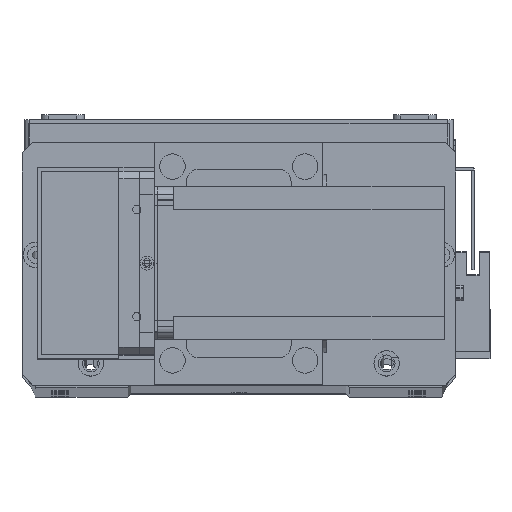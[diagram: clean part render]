
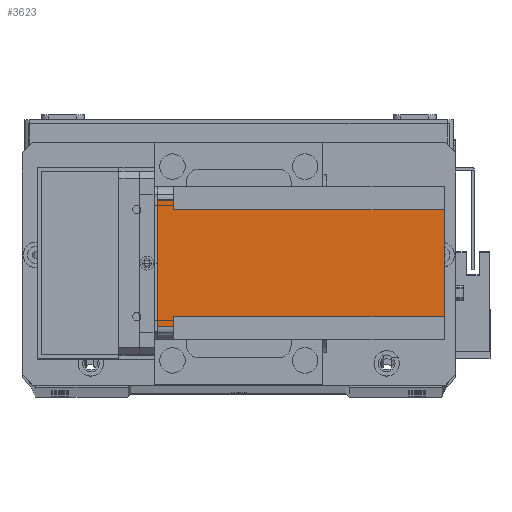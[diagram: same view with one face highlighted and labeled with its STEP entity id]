
A CAD part, top view. The second image highlights one B-rep face of the part: STEP entity #3623.
In plain terms, the highlighted planar face has unit normal (0, 0, 1) as drawn and (-1, 0, 0) by its records, which use the part's own axes.
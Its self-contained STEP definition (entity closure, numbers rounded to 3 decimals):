
#206 = EDGE_CURVE ( 'NONE', #17680, #15325, #20831, .T. ) ;
#563 = VERTEX_POINT ( 'NONE', #28818 ) ;
#1570 = EDGE_CURVE ( 'NONE', #5003, #563, #19942, .T. ) ;
#1966 = DIRECTION ( 'NONE',  ( 0., -1., 0. ) ) ;
#3623 = ADVANCED_FACE ( 'NONE', ( #33237 ), #30148, .T. ) ;
#4470 = CARTESIAN_POINT ( 'NONE',  ( 0., 9., -6.5 ) ) ;
#5003 = VERTEX_POINT ( 'NONE', #20856 ) ;
#5690 = CARTESIAN_POINT ( 'NONE',  ( 0., 51., -112.5 ) ) ;
#5942 = DIRECTION ( 'NONE',  ( 0., 1., 0. ) ) ;
#6618 = DIRECTION ( 'NONE',  ( 0., -1., 0. ) ) ;
#6782 = LINE ( 'NONE', #27424, #19641 ) ;
#7757 = AXIS2_PLACEMENT_3D ( 'NONE', #19824, #17367, #1966 ) ;
#8001 = CARTESIAN_POINT ( 'NONE',  ( 0., 55., -112.5 ) ) ;
#8595 = VERTEX_POINT ( 'NONE', #20460 ) ;
#8763 = DIRECTION ( 'NONE',  ( 0., 0., -1. ) ) ;
#8872 = EDGE_CURVE ( 'NONE', #15584, #21569, #29741, .T. ) ;
#9261 = LINE ( 'NONE', #31653, #15310 ) ;
#9895 = EDGE_CURVE ( 'NONE', #17680, #21569, #6782, .T. ) ;
#11438 = ORIENTED_EDGE ( 'NONE', *, *, #31571, .F. ) ;
#11570 = EDGE_CURVE ( 'NONE', #15325, #11581, #27076, .T. ) ;
#11581 = VERTEX_POINT ( 'NONE', #16153 ) ;
#13815 = CARTESIAN_POINT ( 'NONE',  ( 0., 9., -112.5 ) ) ;
#15078 = EDGE_LOOP ( 'NONE', ( #11438, #31430, #29093, #20043, #28393, #30269, #20622, #17919 ) ) ;
#15310 = VECTOR ( 'NONE', #16286, 1000. ) ;
#15325 = VERTEX_POINT ( 'NONE', #26476 ) ;
#15584 = VERTEX_POINT ( 'NONE', #4470 ) ;
#16153 = CARTESIAN_POINT ( 'NONE',  ( 0., 55., -6.5 ) ) ;
#16286 = DIRECTION ( 'NONE',  ( 0., 1., 0. ) ) ;
#17367 = DIRECTION ( 'NONE',  ( -1., 0., 0. ) ) ;
#17680 = VERTEX_POINT ( 'NONE', #5690 ) ;
#17919 = ORIENTED_EDGE ( 'NONE', *, *, #8872, .F. ) ;
#19141 = VECTOR ( 'NONE', #6618, 1000. ) ;
#19580 = LINE ( 'NONE', #8001, #33218 ) ;
#19641 = VECTOR ( 'NONE', #22374, 1000. ) ;
#19824 = CARTESIAN_POINT ( 'NONE',  ( 0., 0., -112.5 ) ) ;
#19942 = LINE ( 'NONE', #29736, #19141 ) ;
#20035 = VECTOR ( 'NONE', #26708, 1000. ) ;
#20043 = ORIENTED_EDGE ( 'NONE', *, *, #22940, .T. ) ;
#20263 = VECTOR ( 'NONE', #5942, 1000. ) ;
#20460 = CARTESIAN_POINT ( 'NONE',  ( 0., 5., -6.5 ) ) ;
#20622 = ORIENTED_EDGE ( 'NONE', *, *, #9895, .T. ) ;
#20831 = LINE ( 'NONE', #27035, #20035 ) ;
#20856 = CARTESIAN_POINT ( 'NONE',  ( 0., 55., 0. ) ) ;
#21569 = VERTEX_POINT ( 'NONE', #28755 ) ;
#22374 = DIRECTION ( 'NONE',  ( 0., -1., 0. ) ) ;
#22752 = DIRECTION ( 'NONE',  ( 0., 0., 1. ) ) ;
#22789 = LINE ( 'NONE', #25887, #28808 ) ;
#22921 = VECTOR ( 'NONE', #8763, 1000. ) ;
#22940 = EDGE_CURVE ( 'NONE', #5003, #11581, #19580, .T. ) ;
#25887 = CARTESIAN_POINT ( 'NONE',  ( 0., 5., -112.5 ) ) ;
#26476 = CARTESIAN_POINT ( 'NONE',  ( 0., 51., -6.5 ) ) ;
#26708 = DIRECTION ( 'NONE',  ( 0., 0., 1. ) ) ;
#27035 = CARTESIAN_POINT ( 'NONE',  ( 0., 51., -112.5 ) ) ;
#27076 = LINE ( 'NONE', #28937, #20263 ) ;
#27424 = CARTESIAN_POINT ( 'NONE',  ( 0., 0., -112.5 ) ) ;
#28393 = ORIENTED_EDGE ( 'NONE', *, *, #11570, .F. ) ;
#28523 = DIRECTION ( 'NONE',  ( 0., 0., -1. ) ) ;
#28755 = CARTESIAN_POINT ( 'NONE',  ( 0., 9., -112.5 ) ) ;
#28808 = VECTOR ( 'NONE', #22752, 1000. ) ;
#28818 = CARTESIAN_POINT ( 'NONE',  ( 0., 5., 0. ) ) ;
#28937 = CARTESIAN_POINT ( 'NONE',  ( 0., 60., -6.5 ) ) ;
#29093 = ORIENTED_EDGE ( 'NONE', *, *, #1570, .F. ) ;
#29121 = EDGE_CURVE ( 'NONE', #8595, #563, #22789, .T. ) ;
#29736 = CARTESIAN_POINT ( 'NONE',  ( 0., 0., 0. ) ) ;
#29741 = LINE ( 'NONE', #13815, #22921 ) ;
#30148 = PLANE ( 'NONE',  #7757 ) ;
#30269 = ORIENTED_EDGE ( 'NONE', *, *, #206, .F. ) ;
#31430 = ORIENTED_EDGE ( 'NONE', *, *, #29121, .T. ) ;
#31571 = EDGE_CURVE ( 'NONE', #8595, #15584, #9261, .T. ) ;
#31653 = CARTESIAN_POINT ( 'NONE',  ( 0., 0., -6.5 ) ) ;
#33218 = VECTOR ( 'NONE', #28523, 1000. ) ;
#33237 = FACE_OUTER_BOUND ( 'NONE', #15078, .T. ) ;
